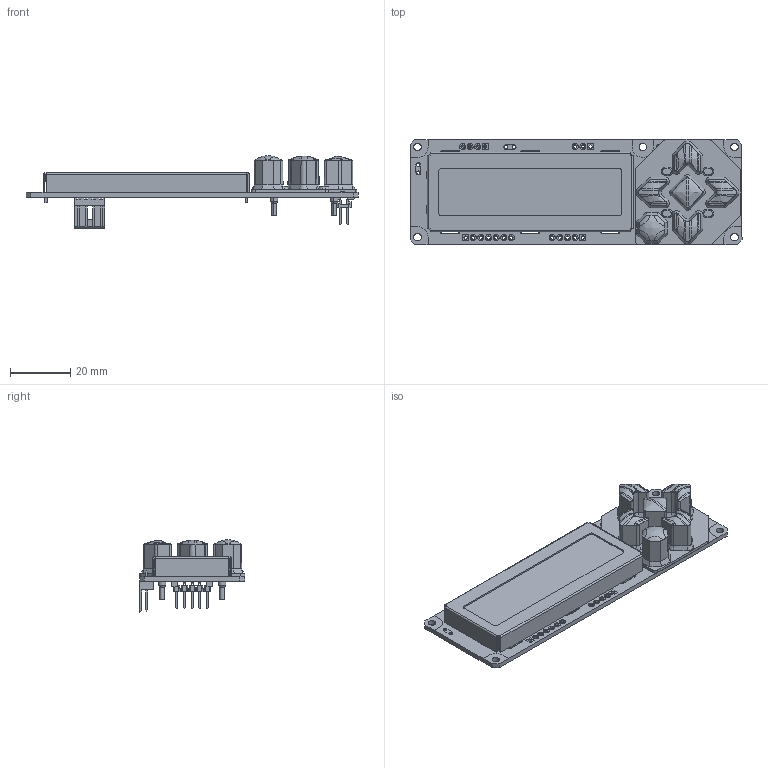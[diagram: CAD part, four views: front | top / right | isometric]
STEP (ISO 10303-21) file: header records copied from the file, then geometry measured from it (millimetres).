
FILE_DESCRIPTION (( 'STEP AP214' ), '1' );
FILE_NAME ('CFA533xxxKS.STEP', '2012-11-28T22:27:33', ( 'brian' ), ( 'Crystalfontz America, Inc.' ), 'SwSTEP 2.0', 'SolidWorks 2012', '' );
FILE_SCHEMA (( 'AUTOMOTIVE_DESIGN' ));
Length unit declared in the file: millimetre
Products named in the file (1): CFA533xxxKS
Bounding box: 110.5 x 35.24 x 24.3 mm (x, y, z)
Surface area: 18482.5 mm2 (no closed solid volume)
Topology: 0 solids, 54 shells, 1001 faces, 3296 edges, 2357 vertices
Faces by surface type: plane 653, cylinder 184, bspline 121, cone 43
Entity records: 52156 total; most frequent: CARTESIAN_POINT 13788, DIRECTION 5414, ORIENTED_EDGE 5358, EDGE_CURVE 3296, VERTEX_POINT 2357, LINE 2286, VECTOR 2286, AXIS2_PLACEMENT_3D 1564
